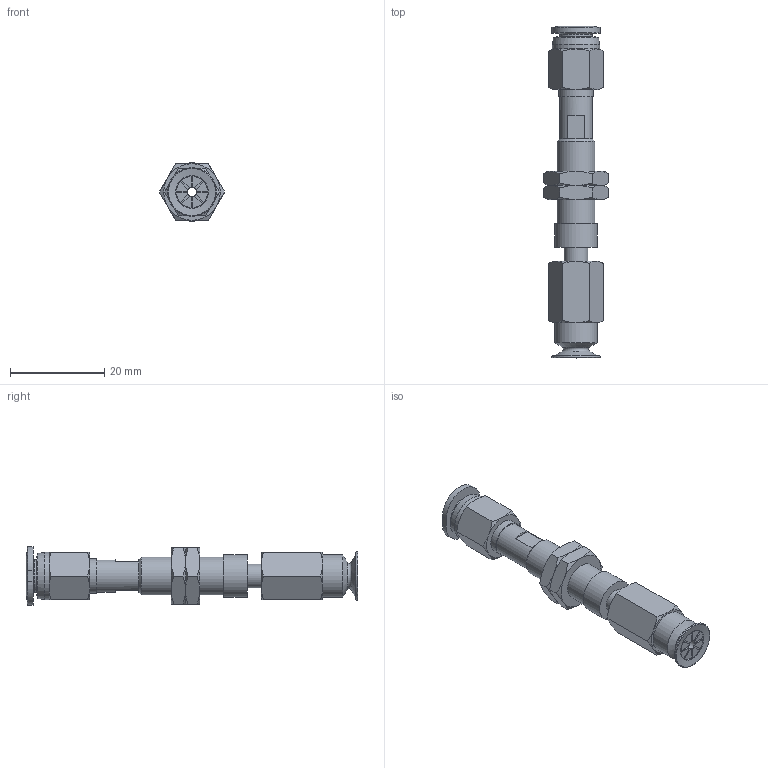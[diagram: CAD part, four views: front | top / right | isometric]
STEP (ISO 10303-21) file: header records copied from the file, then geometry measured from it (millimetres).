
FILE_DESCRIPTION(('STEP AP203'),'1');
FILE_NAME('-O.stp','2025-08-26T08:41:07',(' '),(' '),'Spatial InterOp 3D',' ',' ');
FILE_SCHEMA(('CONFIG_CONTROL_DESIGN'));
Length unit declared in the file: millimetre
Products named in the file (7): BNABPATS-10B-3-※-O; ADAPTER; NAPATS-10A-3--M; NAPATS-10A-3--F; Nut-10A-S; BPAG-10B-※_3D; PC-C_06-M5
Assembly tree (7 placements, depth 2):
  BNABPATS-10B-3-※-O
    ADAPTER
    NAPATS-10A-3--M
    NAPATS-10A-3--F
    Nut-10A-S  x2
    BPAG-10B-※_3D
    PC-C_06-M5
Bounding box: 13.86 x 70.48 x 12.4 mm (x, y, z)
Volume: 3405.8 mm3; surface area: 5055.4 mm2
Topology: 6 solids, 9 shells, 198 faces, 436 edges, 268 vertices
Faces by surface type: plane 82, cone 62, cylinder 34, torus 13, bspline 4, revolution 3
Full cylindrical faces by diameter (mm): 2 x3, 4 x4, 4.134 x1, 5 x3, 6 x2, 7 x3, 7.188 x2, 7.4 x1, 8 x1, 8.2 x1, 9 x2, 10 x1
Entity records: 5274 total; most frequent: CARTESIAN_POINT 1378, DIRECTION 749, ORIENTED_EDGE 652, EDGE_CURVE 328, AXIS2_PLACEMENT_3D 321, EDGE_LOOP 250, VERTEX_POINT 230, FACE_OUTER_BOUND 151
